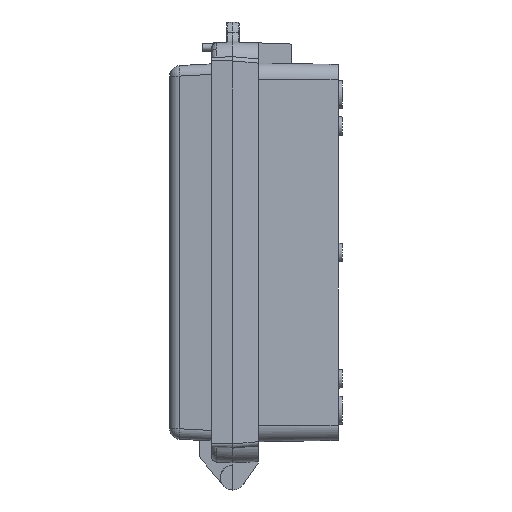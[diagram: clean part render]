
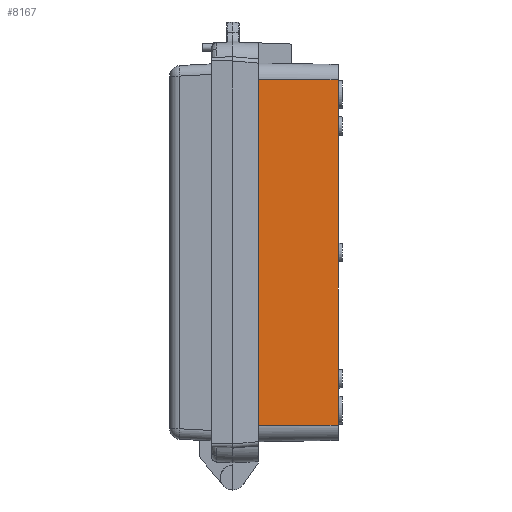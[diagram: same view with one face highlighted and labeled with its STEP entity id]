
A CAD part, left-side view. The second image highlights one B-rep face of the part: STEP entity #8167.
In plain terms, the highlighted planar face has unit normal (-1, -0.018, 0).
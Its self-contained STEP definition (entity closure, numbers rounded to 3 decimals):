
#115 = VERTEX_POINT ( 'NONE', #19632 ) ;
#213 = CARTESIAN_POINT ( 'NONE',  ( -140.148, -3.5, 1.597 ) ) ;
#341 = LINE ( 'NONE', #6777, #6117 ) ;
#368 = CARTESIAN_POINT ( 'NONE',  ( -139.337, -50., -82.15 ) ) ;
#460 = DIRECTION ( 'NONE',  ( 0.017, -1., 0. ) ) ;
#597 = CARTESIAN_POINT ( 'NONE',  ( -140.205, -0.255, -1.71 ) ) ;
#979 = CARTESIAN_POINT ( 'NONE',  ( -140.148, -3.5, -94.653 ) ) ;
#1002 = VECTOR ( 'NONE', #460, 1000. ) ;
#1265 = EDGE_CURVE ( 'NONE', #10360, #11833, #20536, .T. ) ;
#1392 = CARTESIAN_POINT ( 'NONE',  ( -140.053, -8.948, 61.407 ) ) ;
#1441 = ORIENTED_EDGE ( 'NONE', *, *, #15152, .T. ) ;
#1602 = EDGE_CURVE ( 'NONE', #16147, #3850, #2726, .T. ) ;
#1610 = EDGE_CURVE ( 'NONE', #3850, #17458, #18469, .T. ) ;
#1800 = CARTESIAN_POINT ( 'NONE',  ( -140.148, -3.5, -94.653 ) ) ;
#1826 = CARTESIAN_POINT ( 'NONE',  ( -140., -12., -94.653 ) ) ;
#1857 = CARTESIAN_POINT ( 'NONE',  ( -140., -12., -58.7 ) ) ;
#2001 = VECTOR ( 'NONE', #14192, 1000. ) ;
#2154 = ORIENTED_EDGE ( 'NONE', *, *, #20702, .T. ) ;
#2403 = EDGE_CURVE ( 'NONE', #9356, #7939, #9534, .T. ) ;
#2653 = LINE ( 'NONE', #1392, #3231 ) ;
#2726 = LINE ( 'NONE', #5595, #10474 ) ;
#2781 = CARTESIAN_POINT ( 'NONE',  ( -140.126, -4.764, -58.447 ) ) ;
#2849 = DIRECTION ( 'NONE',  ( 0.017, -0.999, -0.035 ) ) ;
#2983 = LINE ( 'NONE', #1800, #9120 ) ;
#3051 = EDGE_CURVE ( 'NONE', #11554, #10360, #14410, .T. ) ;
#3231 = VECTOR ( 'NONE', #7823, 1000. ) ;
#3335 = FACE_OUTER_BOUND ( 'NONE', #6030, .T. ) ;
#3771 = DIRECTION ( 'NONE',  ( -0.017, 0.999, -0.035 ) ) ;
#3850 = VERTEX_POINT ( 'NONE', #5632 ) ;
#4076 = CARTESIAN_POINT ( 'NONE',  ( -139.337, -50., -94.653 ) ) ;
#4178 = LINE ( 'NONE', #597, #10978 ) ;
#4279 = DIRECTION ( 'NONE',  ( -0.017, 0.999, -0.035 ) ) ;
#4286 = ORIENTED_EDGE ( 'NONE', *, *, #17150, .T. ) ;
#4309 = CARTESIAN_POINT ( 'NONE',  ( -140.148, -3.5, -94.653 ) ) ;
#4492 = LINE ( 'NONE', #4076, #2001 ) ;
#4565 = LINE ( 'NONE', #2781, #18923 ) ;
#4732 = CARTESIAN_POINT ( 'NONE',  ( -140.148, -3.5, -82.15 ) ) ;
#4754 = LINE ( 'NONE', #17321, #6901 ) ;
#4851 = VERTEX_POINT ( 'NONE', #368 ) ;
#5076 = EDGE_CURVE ( 'NONE', #20382, #11554, #4565, .T. ) ;
#5129 = VECTOR ( 'NONE', #17254, 1000. ) ;
#5355 = CARTESIAN_POINT ( 'NONE',  ( -140.148, -3.5, -1.597 ) ) ;
#5595 = CARTESIAN_POINT ( 'NONE',  ( -140.242, 1.837, 58.217 ) ) ;
#5632 = CARTESIAN_POINT ( 'NONE',  ( -140.148, -3.5, 58.403 ) ) ;
#5760 = EDGE_CURVE ( 'NONE', #17458, #10285, #4754, .T. ) ;
#6030 = EDGE_LOOP ( 'NONE', ( #12867, #12895, #6337, #16726, #20361, #17483, #16077, #2154, #4286, #14967, #10252, #19921, #18943, #14309, #1441, #13531 ) ) ;
#6071 = CARTESIAN_POINT ( 'NONE',  ( -140.168, -2.347, -61.637 ) ) ;
#6117 = VECTOR ( 'NONE', #13226, 1000. ) ;
#6233 = EDGE_CURVE ( 'NONE', #12587, #18146, #4178, .T. ) ;
#6337 = ORIENTED_EDGE ( 'NONE', *, *, #15260, .T. ) ;
#6777 = CARTESIAN_POINT ( 'NONE',  ( -140.148, -3.5, -94.653 ) ) ;
#6901 = VECTOR ( 'NONE', #2849, 1000. ) ;
#7823 = DIRECTION ( 'NONE',  ( 0.017, -0.999, -0.035 ) ) ;
#7939 = VERTEX_POINT ( 'NONE', #12181 ) ;
#8167 = ADVANCED_FACE ( 'NONE', ( #3335 ), #9769, .T. ) ;
#8191 = DIRECTION ( 'NONE',  ( 0.017, -1., 0. ) ) ;
#8345 = LINE ( 'NONE', #16904, #13733 ) ;
#9120 = VECTOR ( 'NONE', #9832, 1000. ) ;
#9356 = VERTEX_POINT ( 'NONE', #20127 ) ;
#9534 = LINE ( 'NONE', #12590, #5129 ) ;
#9564 = DIRECTION ( 'NONE',  ( 0., 0., -1. ) ) ;
#9664 = CARTESIAN_POINT ( 'NONE',  ( -140., -12., -94.653 ) ) ;
#9769 = PLANE ( 'NONE',  #10049 ) ;
#9832 = DIRECTION ( 'NONE',  ( 0., 0., -1. ) ) ;
#10049 = AXIS2_PLACEMENT_3D ( 'NONE', #11168, #16218, #8191 ) ;
#10092 = VECTOR ( 'NONE', #17788, 1000. ) ;
#10252 = ORIENTED_EDGE ( 'NONE', *, *, #1610, .T. ) ;
#10285 = VERTEX_POINT ( 'NONE', #12855 ) ;
#10360 = VERTEX_POINT ( 'NONE', #19600 ) ;
#10474 = VECTOR ( 'NONE', #12032, 1000. ) ;
#10923 = VECTOR ( 'NONE', #9564, 1000. ) ;
#10978 = VECTOR ( 'NONE', #3771, 1000. ) ;
#11168 = CARTESIAN_POINT ( 'NONE',  ( -140.148, -3.5, -94.653 ) ) ;
#11360 = LINE ( 'NONE', #1826, #10092 ) ;
#11554 = VERTEX_POINT ( 'NONE', #1857 ) ;
#11833 = VERTEX_POINT ( 'NONE', #15683 ) ;
#12032 = DIRECTION ( 'NONE',  ( -0.017, 0.999, -0.035 ) ) ;
#12181 = CARTESIAN_POINT ( 'NONE',  ( -140.148, -3.5, 82.15 ) ) ;
#12340 = EDGE_CURVE ( 'NONE', #10285, #12587, #8345, .T. ) ;
#12587 = VERTEX_POINT ( 'NONE', #14189 ) ;
#12590 = CARTESIAN_POINT ( 'NONE',  ( -140.148, -3.5, 82.15 ) ) ;
#12855 = CARTESIAN_POINT ( 'NONE',  ( -140., -12., 1.3 ) ) ;
#12867 = ORIENTED_EDGE ( 'NONE', *, *, #3051, .T. ) ;
#12895 = ORIENTED_EDGE ( 'NONE', *, *, #1265, .T. ) ;
#13167 = VECTOR ( 'NONE', #15299, 1000. ) ;
#13226 = DIRECTION ( 'NONE',  ( 0., 0., -1. ) ) ;
#13409 = DIRECTION ( 'NONE',  ( 0., 0., -1. ) ) ;
#13531 = ORIENTED_EDGE ( 'NONE', *, *, #5076, .T. ) ;
#13670 = EDGE_CURVE ( 'NONE', #4851, #9356, #4492, .T. ) ;
#13733 = VECTOR ( 'NONE', #13409, 1000. ) ;
#13860 = LINE ( 'NONE', #979, #19927 ) ;
#13980 = EDGE_CURVE ( 'NONE', #16046, #4851, #14919, .T. ) ;
#14189 = CARTESIAN_POINT ( 'NONE',  ( -140., -12., -1.3 ) ) ;
#14192 = DIRECTION ( 'NONE',  ( 0., 0., 1. ) ) ;
#14309 = ORIENTED_EDGE ( 'NONE', *, *, #6233, .T. ) ;
#14410 = LINE ( 'NONE', #9664, #10923 ) ;
#14919 = LINE ( 'NONE', #16404, #1002 ) ;
#14967 = ORIENTED_EDGE ( 'NONE', *, *, #1602, .T. ) ;
#15152 = EDGE_CURVE ( 'NONE', #18146, #20382, #13860, .T. ) ;
#15260 = EDGE_CURVE ( 'NONE', #11833, #16046, #2983, .T. ) ;
#15299 = DIRECTION ( 'NONE',  ( 0., 0., -1. ) ) ;
#15552 = DIRECTION ( 'NONE',  ( 0., 0., -1. ) ) ;
#15683 = CARTESIAN_POINT ( 'NONE',  ( -140.148, -3.5, -61.597 ) ) ;
#16046 = VERTEX_POINT ( 'NONE', #4732 ) ;
#16077 = ORIENTED_EDGE ( 'NONE', *, *, #18970, .T. ) ;
#16147 = VERTEX_POINT ( 'NONE', #18948 ) ;
#16218 = DIRECTION ( 'NONE',  ( -1., -0.017, 0. ) ) ;
#16404 = CARTESIAN_POINT ( 'NONE',  ( -140.148, -3.5, -82.15 ) ) ;
#16726 = ORIENTED_EDGE ( 'NONE', *, *, #13980, .T. ) ;
#16904 = CARTESIAN_POINT ( 'NONE',  ( -140., -12., -94.653 ) ) ;
#16937 = CARTESIAN_POINT ( 'NONE',  ( -140.148, -3.5, 61.597 ) ) ;
#17150 = EDGE_CURVE ( 'NONE', #115, #16147, #11360, .T. ) ;
#17254 = DIRECTION ( 'NONE',  ( -0.017, 1., 0. ) ) ;
#17321 = CARTESIAN_POINT ( 'NONE',  ( -140.09, -6.856, 1.48 ) ) ;
#17458 = VERTEX_POINT ( 'NONE', #213 ) ;
#17483 = ORIENTED_EDGE ( 'NONE', *, *, #2403, .T. ) ;
#17788 = DIRECTION ( 'NONE',  ( 0., 0., -1. ) ) ;
#18146 = VERTEX_POINT ( 'NONE', #5355 ) ;
#18319 = VECTOR ( 'NONE', #4279, 1000. ) ;
#18469 = LINE ( 'NONE', #4309, #13167 ) ;
#18606 = VERTEX_POINT ( 'NONE', #16937 ) ;
#18771 = CARTESIAN_POINT ( 'NONE',  ( -140.148, -3.5, -58.403 ) ) ;
#18923 = VECTOR ( 'NONE', #20623, 1000. ) ;
#18943 = ORIENTED_EDGE ( 'NONE', *, *, #12340, .T. ) ;
#18948 = CARTESIAN_POINT ( 'NONE',  ( -140., -12., 58.7 ) ) ;
#18970 = EDGE_CURVE ( 'NONE', #7939, #18606, #341, .T. ) ;
#19600 = CARTESIAN_POINT ( 'NONE',  ( -140., -12., -61.3 ) ) ;
#19632 = CARTESIAN_POINT ( 'NONE',  ( -140., -12., 61.3 ) ) ;
#19921 = ORIENTED_EDGE ( 'NONE', *, *, #5760, .T. ) ;
#19927 = VECTOR ( 'NONE', #15552, 1000. ) ;
#20127 = CARTESIAN_POINT ( 'NONE',  ( -139.337, -50., 82.15 ) ) ;
#20361 = ORIENTED_EDGE ( 'NONE', *, *, #13670, .T. ) ;
#20382 = VERTEX_POINT ( 'NONE', #18771 ) ;
#20536 = LINE ( 'NONE', #6071, #18319 ) ;
#20623 = DIRECTION ( 'NONE',  ( 0.017, -0.999, -0.035 ) ) ;
#20702 = EDGE_CURVE ( 'NONE', #18606, #115, #2653, .T. ) ;
